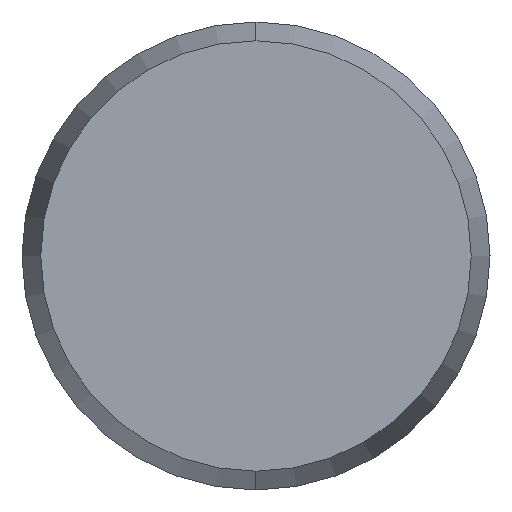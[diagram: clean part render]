
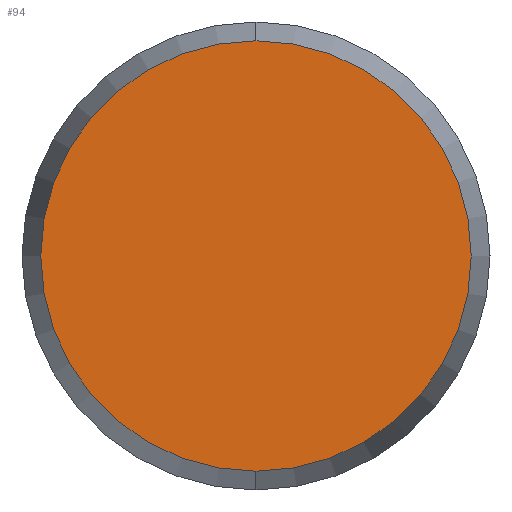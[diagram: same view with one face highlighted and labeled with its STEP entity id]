
A CAD part, left-side view. The second image highlights one B-rep face of the part: STEP entity #94.
In plain terms, the highlighted planar face has unit normal (-1, 0, 0).
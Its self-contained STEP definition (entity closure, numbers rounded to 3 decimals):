
#90 = EDGE_CURVE ( 'NONE', #118, #117, #145, .T. ) ;
#94 = ADVANCED_FACE ( 'NONE', ( #146 ), #140, .F. ) ;
#95 = EDGE_LOOP ( 'NONE', ( #100, #101 ) ) ;
#100 = ORIENTED_EDGE ( 'NONE', *, *, #116, .F. ) ;
#101 = ORIENTED_EDGE ( 'NONE', *, *, #90, .F. ) ;
#116 = EDGE_CURVE ( 'NONE', #117, #118, #205, .T. ) ;
#117 = VERTEX_POINT ( 'NONE', #195 ) ;
#118 = VERTEX_POINT ( 'NONE', #194 ) ;
#135 = DIRECTION ( 'NONE',  ( 0., 0., -1. ) ) ;
#136 = DIRECTION ( 'NONE',  ( 1., 0., 0. ) ) ;
#137 = CARTESIAN_POINT ( 'NONE',  ( -55., 0., 0. ) ) ;
#138 = AXIS2_PLACEMENT_3D ( 'NONE', #137, #136, #135 ) ;
#140 = PLANE ( 'NONE',  #138 ) ;
#141 = DIRECTION ( 'NONE',  ( 0., 0., -1. ) ) ;
#142 = DIRECTION ( 'NONE',  ( 1., 0., 0. ) ) ;
#143 = CARTESIAN_POINT ( 'NONE',  ( -55., 0., 0. ) ) ;
#144 = AXIS2_PLACEMENT_3D ( 'NONE', #143, #142, #141 ) ;
#145 = CIRCLE ( 'NONE', #144, 4.598 ) ;
#146 = FACE_OUTER_BOUND ( 'NONE', #95, .T. ) ;
#194 = CARTESIAN_POINT ( 'NONE',  ( -55., 0., -4.598 ) ) ;
#195 = CARTESIAN_POINT ( 'NONE',  ( -55., 0., 4.598 ) ) ;
#196 = DIRECTION ( 'NONE',  ( 0., 0., -1. ) ) ;
#197 = DIRECTION ( 'NONE',  ( 1., 0., 0. ) ) ;
#198 = CARTESIAN_POINT ( 'NONE',  ( -55., 0., 0. ) ) ;
#199 = AXIS2_PLACEMENT_3D ( 'NONE', #198, #197, #196 ) ;
#205 = CIRCLE ( 'NONE', #199, 4.598 ) ;
